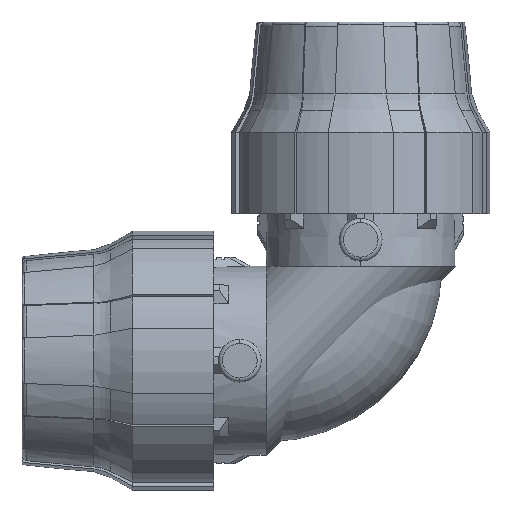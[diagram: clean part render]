
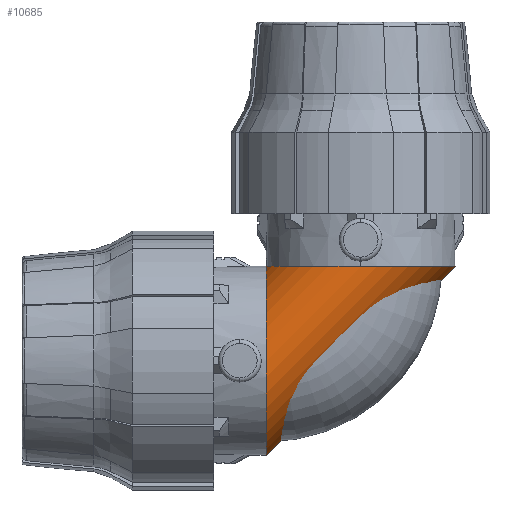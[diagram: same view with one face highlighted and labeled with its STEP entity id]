
A CAD part, left-side view. The second image highlights one B-rep face of the part: STEP entity #10685.
In plain terms, the highlighted toroidal (fillet/blend) face has major radius 35.4 mm and minor radius 35.4 mm.
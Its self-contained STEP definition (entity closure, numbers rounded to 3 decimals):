
#295 = CARTESIAN_POINT ( 'NONE',  ( 0., 35.4, -35.4 ) ) ;
#969 = CARTESIAN_POINT ( 'NONE',  ( 0., 35.4, -70.8 ) ) ;
#1861 = CARTESIAN_POINT ( 'NONE',  ( 0., 0., 0. ) ) ;
#2048 = DIRECTION ( 'NONE',  ( 1., 0., 0. ) ) ;
#2278 = EDGE_LOOP ( 'NONE', ( #10642, #7366, #10579, #4299 ) ) ;
#2371 = EDGE_CURVE ( 'NONE', #18098, #19175, #22156, .T. ) ;
#3576 = DIRECTION ( 'NONE',  ( 1., 0., 0. ) ) ;
#4299 = ORIENTED_EDGE ( 'NONE', *, *, #14436, .F. ) ;
#4356 = CIRCLE ( 'NONE', #17415, 35.4 ) ;
#4436 = DIRECTION ( 'NONE',  ( 0., 0., 1. ) ) ;
#4564 = CARTESIAN_POINT ( 'NONE',  ( 0., -35.4, 0. ) ) ;
#4860 = CARTESIAN_POINT ( 'NONE',  ( 0., 35.4, -35.4 ) ) ;
#5021 = AXIS2_PLACEMENT_3D ( 'NONE', #14720, #4436, #16474 ) ;
#5260 = CARTESIAN_POINT ( 'NONE',  ( 0., 35.4, 0. ) ) ;
#6594 = DIRECTION ( 'NONE',  ( 1., 0., 0. ) ) ;
#7366 = ORIENTED_EDGE ( 'NONE', *, *, #16596, .T. ) ;
#8419 = FACE_OUTER_BOUND ( 'NONE', #2278, .T. ) ;
#8588 = CIRCLE ( 'NONE', #9579, 35.4 ) ;
#9275 = AXIS2_PLACEMENT_3D ( 'NONE', #5260, #15578, #17321 ) ;
#9579 = AXIS2_PLACEMENT_3D ( 'NONE', #295, #12321, #2048 ) ;
#10579 = ORIENTED_EDGE ( 'NONE', *, *, #2371, .F. ) ;
#10642 = ORIENTED_EDGE ( 'NONE', *, *, #15122, .T. ) ;
#10685 = ADVANCED_FACE ( 'NONE', ( #8419 ), #18129, .T. ) ;
#12321 = DIRECTION ( 'NONE',  ( 0., -1., 0. ) ) ;
#13379 = CIRCLE ( 'NONE', #15987, 35.4 ) ;
#13864 = DIRECTION ( 'NONE',  ( 0., 0., 1. ) ) ;
#14436 = EDGE_CURVE ( 'NONE', #19175, #18098, #4356, .T. ) ;
#14720 = CARTESIAN_POINT ( 'NONE',  ( 0., 0., 0. ) ) ;
#15122 = EDGE_CURVE ( 'NONE', #19175, #21657, #8588, .T. ) ;
#15578 = DIRECTION ( 'NONE',  ( -1., 0., 0. ) ) ;
#15987 = AXIS2_PLACEMENT_3D ( 'NONE', #4860, #16910, #6594 ) ;
#16474 = DIRECTION ( 'NONE',  ( 1., 0., 0. ) ) ;
#16596 = EDGE_CURVE ( 'NONE', #21657, #19175, #13379, .T. ) ;
#16910 = DIRECTION ( 'NONE',  ( 0., -1., 0. ) ) ;
#17321 = DIRECTION ( 'NONE',  ( 0., 0., 1. ) ) ;
#17415 = AXIS2_PLACEMENT_3D ( 'NONE', #1861, #13864, #3576 ) ;
#18098 = VERTEX_POINT ( 'NONE', #4564 ) ;
#18129 = TOROIDAL_SURFACE ( 'NONE', #9275, 35.4, 35.4 ) ;
#19175 = VERTEX_POINT ( 'NONE', #20568 ) ;
#20568 = CARTESIAN_POINT ( 'NONE',  ( 0., 35.4, 0. ) ) ;
#21657 = VERTEX_POINT ( 'NONE', #969 ) ;
#22156 = CIRCLE ( 'NONE', #5021, 35.4 ) ;
